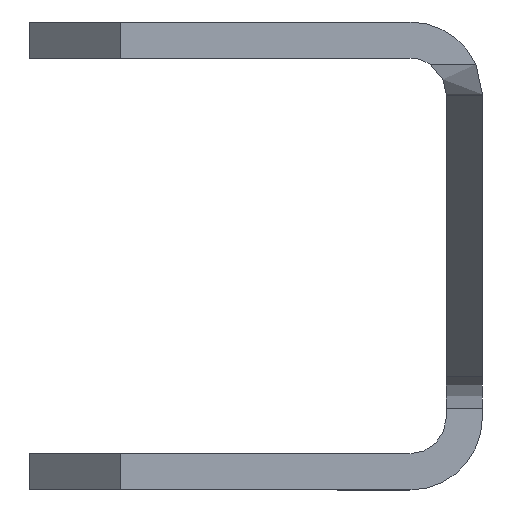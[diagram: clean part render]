
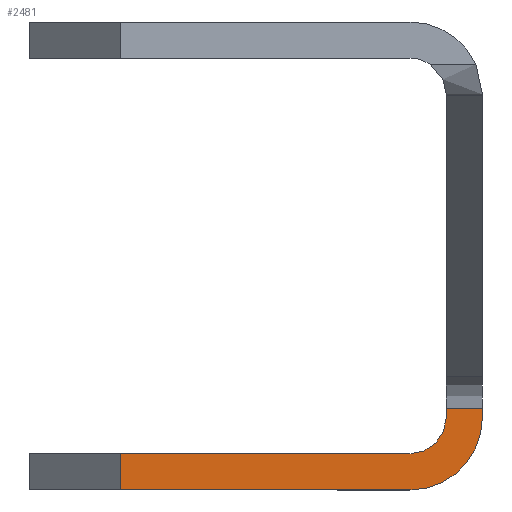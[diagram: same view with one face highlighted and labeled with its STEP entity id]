
A CAD part, left-side view. The second image highlights one B-rep face of the part: STEP entity #2481.
In plain terms, the highlighted planar face has unit normal (-1, 0, 0).
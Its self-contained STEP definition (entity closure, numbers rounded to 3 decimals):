
#14 = CIRCLE ( 'NONE', #1701, 1.2 ) ;
#136 = CIRCLE ( 'NONE', #1455, 2.4 ) ;
#641 = PLANE ( 'NONE',  #1909 ) ;
#642 = CARTESIAN_POINT ( 'NONE',  ( -737.5, 7.5, -4.35 ) ) ;
#643 = DIRECTION ( 'NONE',  ( 1., 0., 0. ) ) ;
#644 = DIRECTION ( 'NONE',  ( 0., 0., -1. ) ) ;
#986 = CARTESIAN_POINT ( 'NONE',  ( -737.5, -6.3, -5.046 ) ) ;
#989 = CARTESIAN_POINT ( 'NONE',  ( -737.5, 4.5, -7.75 ) ) ;
#995 = CARTESIAN_POINT ( 'NONE',  ( -737.5, -6.3, -5.35 ) ) ;
#1006 = CARTESIAN_POINT ( 'NONE',  ( -737.5, -7.5, -5.35 ) ) ;
#1007 = CARTESIAN_POINT ( 'NONE',  ( -737.5, -5.1, -7.75 ) ) ;
#1017 = CARTESIAN_POINT ( 'NONE',  ( -737.5, -7.5, -5.046 ) ) ;
#1022 = CARTESIAN_POINT ( 'NONE',  ( -737.5, 4.5, -6.55 ) ) ;
#1041 = CARTESIAN_POINT ( 'NONE',  ( -737.5, -5.1, -6.55 ) ) ;
#1419 = VECTOR ( 'NONE', #2790, 1000. ) ;
#1434 = VECTOR ( 'NONE', #5006, 1000. ) ;
#1446 = VECTOR ( 'NONE', #4961, 1000. ) ;
#1455 = AXIS2_PLACEMENT_3D ( 'NONE', #4940, #4941, #4942 ) ;
#1682 = VECTOR ( 'NONE', #3085, 1000. ) ;
#1701 = AXIS2_PLACEMENT_3D ( 'NONE', #3094, #3093, #3092 ) ;
#1909 = AXIS2_PLACEMENT_3D ( 'NONE', #642, #643, #644 ) ;
#1912 = FACE_OUTER_BOUND ( 'NONE', #4388, .T. ) ;
#2251 = VECTOR ( 'NONE', #4784, 1000. ) ;
#2252 = VECTOR ( 'NONE', #4787, 1000. ) ;
#2294 = EDGE_CURVE ( 'NONE', #3425, #3379, #14, .T. ) ;
#2296 = EDGE_CURVE ( 'NONE', #3370, #3379, #3087, .T. ) ;
#2376 = EDGE_CURVE ( 'NONE', #3425, #3406, #2792, .T. ) ;
#2481 = ADVANCED_FACE ( 'NONE', ( #1912 ), #641, .F. ) ;
#2790 = DIRECTION ( 'NONE',  ( 0., 1., 0. ) ) ;
#2791 = CARTESIAN_POINT ( 'NONE',  ( -737.5, 7.5, -6.55 ) ) ;
#2792 = LINE ( 'NONE', #2791, #1419 ) ;
#3085 = DIRECTION ( 'NONE',  ( 0., 0., -1. ) ) ;
#3086 = CARTESIAN_POINT ( 'NONE',  ( -737.5, -6.3, 7.75 ) ) ;
#3087 = LINE ( 'NONE', #3086, #1682 ) ;
#3092 = DIRECTION ( 'NONE',  ( 0., 0., -1. ) ) ;
#3093 = DIRECTION ( 'NONE',  ( -1., 0., 0. ) ) ;
#3094 = CARTESIAN_POINT ( 'NONE',  ( -737.5, -5.1, -5.35 ) ) ;
#3370 = VERTEX_POINT ( 'NONE', #986 ) ;
#3373 = VERTEX_POINT ( 'NONE', #989 ) ;
#3379 = VERTEX_POINT ( 'NONE', #995 ) ;
#3390 = VERTEX_POINT ( 'NONE', #1006 ) ;
#3391 = VERTEX_POINT ( 'NONE', #1007 ) ;
#3401 = VERTEX_POINT ( 'NONE', #1017 ) ;
#3406 = VERTEX_POINT ( 'NONE', #1022 ) ;
#3425 = VERTEX_POINT ( 'NONE', #1041 ) ;
#3835 = ORIENTED_EDGE ( 'NONE', *, *, #2294, .F. ) ;
#3837 = ORIENTED_EDGE ( 'NONE', *, *, #2296, .T. ) ;
#3839 = ORIENTED_EDGE ( 'NONE', *, *, #5625, .T. ) ;
#3840 = ORIENTED_EDGE ( 'NONE', *, *, #3870, .T. ) ;
#3841 = ORIENTED_EDGE ( 'NONE', *, *, #3876, .F. ) ;
#3842 = ORIENTED_EDGE ( 'NONE', *, *, #5626, .T. ) ;
#3843 = ORIENTED_EDGE ( 'NONE', *, *, #2376, .T. ) ;
#3846 = ORIENTED_EDGE ( 'NONE', *, *, #3891, .T. ) ;
#3870 = EDGE_CURVE ( 'NONE', #3391, #3390, #136, .T. ) ;
#3876 = EDGE_CURVE ( 'NONE', #3401, #3390, #4959, .T. ) ;
#3891 = EDGE_CURVE ( 'NONE', #3373, #3391, #5004, .T. ) ;
#4388 = EDGE_LOOP ( 'NONE', ( #3843, #3842, #3846, #3840, #3841, #3839, #3837, #3835 ) ) ;
#4782 = LINE ( 'NONE', #4783, #2251 ) ;
#4783 = CARTESIAN_POINT ( 'NONE',  ( -737.5, 7.5, -5.046 ) ) ;
#4784 = DIRECTION ( 'NONE',  ( 0., 1., 0. ) ) ;
#4785 = LINE ( 'NONE', #4786, #2252 ) ;
#4786 = CARTESIAN_POINT ( 'NONE',  ( -737.5, 4.5, -4.35 ) ) ;
#4787 = DIRECTION ( 'NONE',  ( 0., 0., -1. ) ) ;
#4940 = CARTESIAN_POINT ( 'NONE',  ( -737.5, -5.1, -5.35 ) ) ;
#4941 = DIRECTION ( 'NONE',  ( -1., 0., 0. ) ) ;
#4942 = DIRECTION ( 'NONE',  ( 0., 0., -1. ) ) ;
#4959 = LINE ( 'NONE', #4960, #1446 ) ;
#4960 = CARTESIAN_POINT ( 'NONE',  ( -737.5, -7.5, -4.35 ) ) ;
#4961 = DIRECTION ( 'NONE',  ( 0., 0., -1. ) ) ;
#5004 = LINE ( 'NONE', #5005, #1434 ) ;
#5005 = CARTESIAN_POINT ( 'NONE',  ( -737.5, 7.5, -7.75 ) ) ;
#5006 = DIRECTION ( 'NONE',  ( 0., -1., 0. ) ) ;
#5625 = EDGE_CURVE ( 'NONE', #3401, #3370, #4782, .T. ) ;
#5626 = EDGE_CURVE ( 'NONE', #3406, #3373, #4785, .T. ) ;
